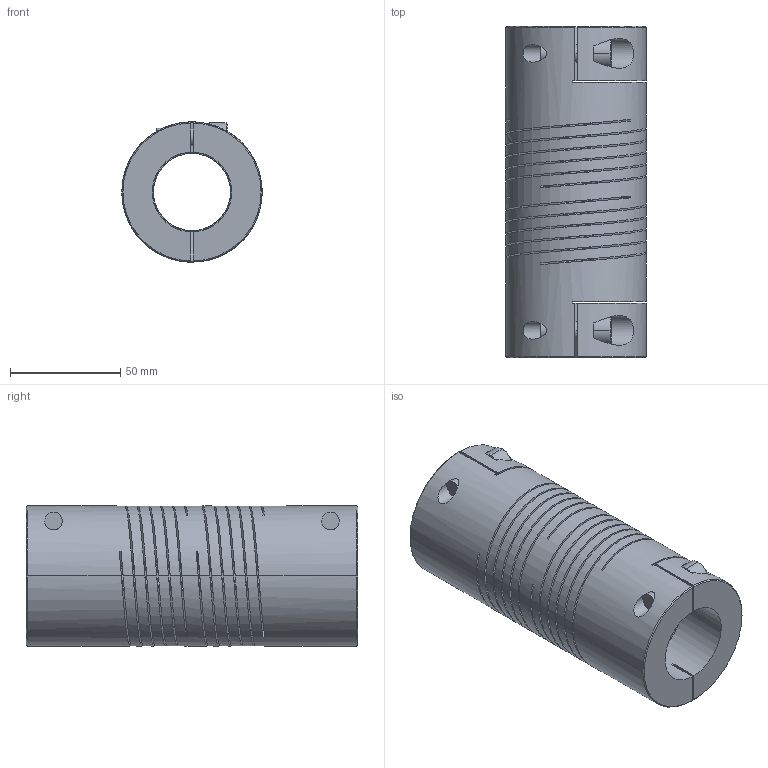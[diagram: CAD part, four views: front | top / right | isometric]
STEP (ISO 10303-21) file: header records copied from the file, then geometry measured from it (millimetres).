
FILE_DESCRIPTION((''),'2;1');
FILE_NAME('707_64','2006-12-06T',('Gary Melling'),(''),'PRO/ENGINEER BY PARAMETRIC TECHNOLOGY CORPORATION, 2006240','PRO/ENGINEER BY PARAMETRIC TECHNOLOGY CORPORATION, 2006240','');
FILE_SCHEMA(('CONFIG_CONTROL_DESIGN'));
Length unit declared in the file: millimetre
Products named in the file (1): 707_64
Bounding box: 63.5 x 150 x 63.5 mm (x, y, z)
Volume: 302288.5 mm3; surface area: 105803 mm2
Topology: 1 solids, 1 shells, 134 faces, 398 edges, 260 vertices
Faces by surface type: plane 60, cylinder 56, bspline 12, cone 6
Entity records: 7873 total; most frequent: CARTESIAN_POINT 4445, ORIENTED_EDGE 796, DIRECTION 580, EDGE_CURVE 398, VERTEX_POINT 260, VECTOR 200, LINE 200, AXIS2_PLACEMENT_3D 190
